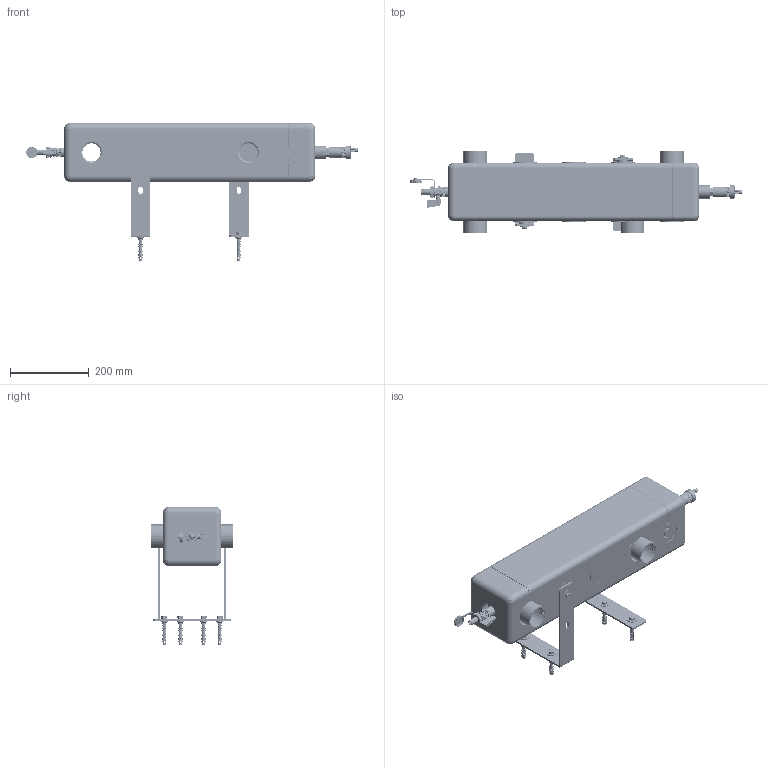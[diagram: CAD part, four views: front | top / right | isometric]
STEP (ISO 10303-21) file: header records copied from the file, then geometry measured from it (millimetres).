
FILE_DESCRIPTION (( 'STEP AP214' ), '1' );
FILE_NAME ('77323.STEP', '2022-06-22T13:21:25', ( '' ), ( '' ), 'SwSTEP 2.0', 'SolidWorks 2021', '' );
FILE_SCHEMA (( 'AUTOMOTIVE_DESIGN' ));
Length unit declared in the file: millimetre
Products named in the file (53): 05 00 280011_Deckel Schnellentl_X_FCfter; FLACHDICHTUNG; GRIFF; 08_001_033_OJACAN; 05 00 280012_Federhebel Schnellentl_X_FCfter; 08_009_001; 05 00 250320_Ventilgeh_X_E4use MV G3_8ixR1_2a SW22x20_ Ms; PODLOZKA_GUMA; 05 00 250330_Druckfeder _X_F812x21,2mm d=0,7mm; 08_009_002; KFE_HAHN G1_2 PTFE; 801 000 0184_O-Ring _X_F88,0x2,0mm EPDM; 05 00 250325_St_X_F6_X_DFel MV R1_2 L=22; VIJAK_M10; 5IZOLVMESNIEPP80_1; 08_009_005; 5IZOLVMESNIEPP80_3; plomba; 08_001_004; _X_DCberwurfmutter M32x1,5_05 00 210014; 42407; Geh_X_E4use Schnellentl_X_FCfter_05 00 210013; T_LLE; VIJAK_ZIDNI; GEH_USE; HALTELASCHE; VLOZEK_ZIDNI; 08_001_008; 5IZOLKONCNIEPP80_1; 05 00 280034_Schraubkappe SE Aquastop; 801 024 2002_O-Ring  _X_F824.00x2.00mm EPDM; Feder_Baugruppe; 08_009_003; NOSILEC_KOMPLET_RW120_RW170_ASM; DECKEL G3_4; DECKEL0G304; 77219_air-vent_MV-R12; PODLOZKA; GEWINDEDICHTRING G1_2; 05 00 280024_Vierkantzuschn. 6,5x1,4 L=5,2mm Silikon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
Assembly tree (70 placements, depth 5):
  77323
    08_009_001
    08_009_005  x4
    08_009_003
    08_009_004
    08_009_002  x2
    08_001_004
    08_001_008  x2
    5IZOLVMESNIEPP80_1
    5IZOLVMESNIEPP80_2
    5IZOLVMESNIEPP80_3
    5IZOLVMESNIEPP80_4
    5IZOLKONCNIEPP80_1
    5IZOLKONCNIEPP80_2
    NOSILEC_KOMPLET_RW120_RW170_ASM  x2
      08_001_033_OJACAN
      VLOZEK_ZIDNI
      PODLOZKA
      VIJAK_ZIDNI
      VIJAK_M10
      PODLOZKA_GUMA
    42407
      KFE_HAHN G1_2 PTFE
        SPINDEL
        GEWINDEDICHTRING G1_2
        GEWINDERING G1_2
        GRIFF
        T_LLE
        MUTTER G3_4
        GEH_USE
        HALTELASCHE
        DECKEL G3_4
        DECKEL0G304
          FLACHDICHTUNG
    77219_air-vent_MV-R12
      Schnellentl_X_FCfter MS G3_8 Aquastop_05 00 21 13
        801 024 2002_O-Ring  _X_F824.00x2.00mm EPDM
        Feder_Baugruppe
          05 00 280024_Vierkantzuschn. 6,5x1,4 L=5,2mm Silikon
          05 00 280012_Federhebel Schnellentl_X_FCfter
        05 00 210004_Schwimmer Schnellentl_X_FCfter
        _X_DCberwurfmutter M32x1,5_05 00 210014
        801 014 1780_O-Ring  _X_F814x1.78 mm EPDM
        760 000 0169_Quellscheibe _X_F87x_X_F82,5x0,5  x9
        Geh_X_E4use Schnellentl_X_FCfter_05 00 210013
        05 00 280011_Deckel Schnellentl_X_FCfter
        05 00 280034_Schraubkappe SE Aquastop
      05 00 25 40_MV G3_8ixR1_2ax20 _RO_
        05 00 250330_Druckfeder _X_F812x21,2mm d=0,7mm
        801 000 0184_O-Ring _X_F88,0x2,0mm EPDM
        05 00 250325_St_X_F6_X_DFel MV R1_2 L=22
      05 00 250320_Ventilgeh_X_E4use MV G3_8ixR1_2a SW22x20_ Ms
    plomba
Bounding box: 845.65 x 210 x 351.5 mm (x, y, z)
Volume: 10051579.6 mm3; surface area: 1675748.4 mm2
Topology: 63 solids, 81 shells, 5344 faces, 14090 edges, 9089 vertices
Faces by surface type: cylinder 2187, plane 1922, bspline 628, cone 595, torus 12
Entity records: 205461 total; most frequent: CARTESIAN_POINT 73859, ORIENTED_EDGE 21201, DIRECTION 18142, EDGE_CURVE 10617, VERTEX_POINT 6823, AXIS2_PLACEMENT_3D 6816, LINE 4510, VECTOR 4510
